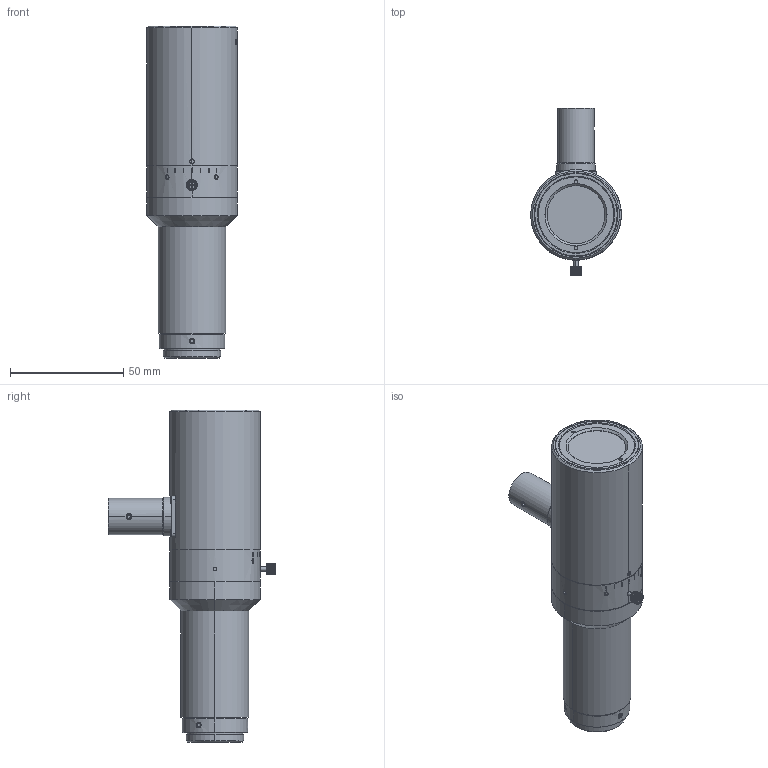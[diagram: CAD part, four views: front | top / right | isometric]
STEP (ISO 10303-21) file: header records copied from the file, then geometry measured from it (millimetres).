
FILE_DESCRIPTION (( 'STEP AP203' ), '1' );
FILE_NAME ('A04218A0100101.STEP', '2012-09-24T04:09:49', ( ' ' ), ( ' ' ), 'SwSTEP 2.0', 'SolidWorks 2011', '' );
FILE_SCHEMA (( 'CONFIG_CONTROL_DESIGN' ));
Length unit declared in the file: millimetre
Products named in the file (1): A04218A0100101
Bounding box: 40 x 73.75 x 146.57 mm (x, y, z)
Volume: 151286 mm3; surface area: 21950.4 mm2
Topology: 1 solids, 1 shells, 666 faces, 1761 edges, 1144 vertices
Faces by surface type: plane 276, cylinder 139, cone 117, bspline 112, torus 12, sphere 10
Entity records: 30850 total; most frequent: CARTESIAN_POINT 15517, ORIENTED_EDGE 3518, DIRECTION 2673, EDGE_CURVE 1759, VERTEX_POINT 1144, AXIS2_PLACEMENT_3D 1035, EDGE_LOOP 717, B_SPLINE_CURVE_WITH_KNOTS 671
